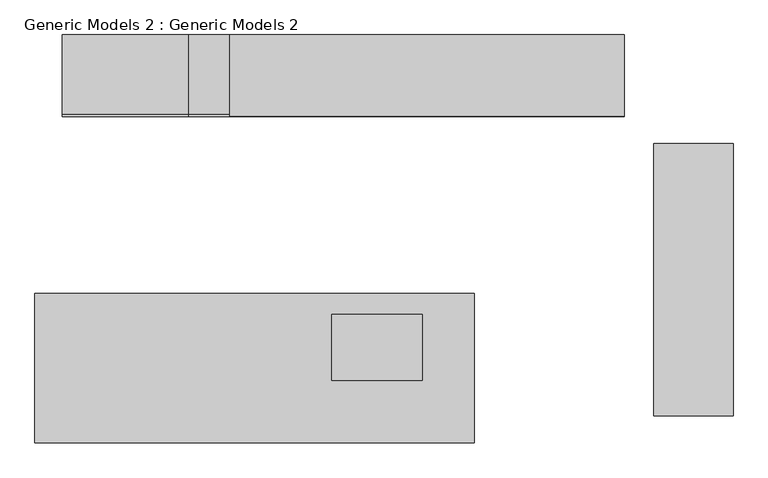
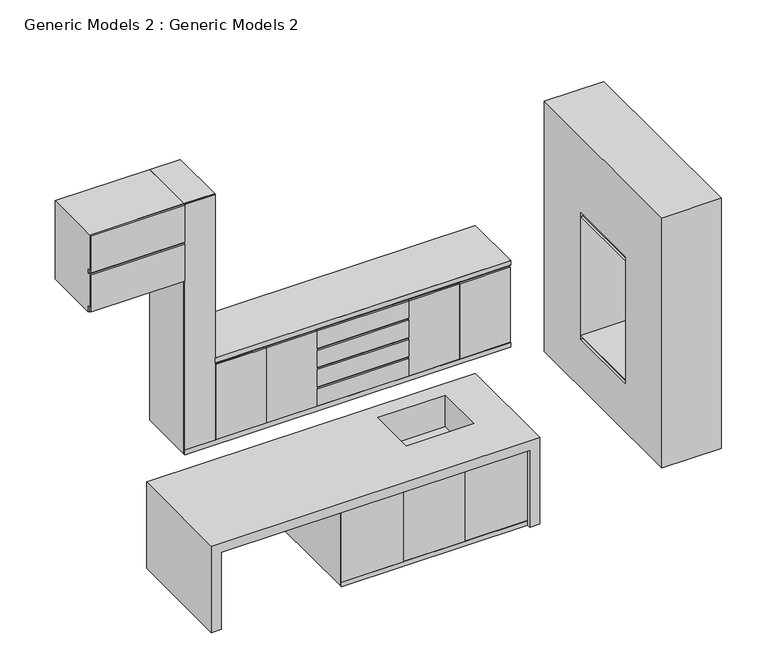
"""IFC4 building model written with IfcOpenShell, lengths in millimetres: proxy geometry, Generic Models 2 : Generic Models 2."""

from ifc_helpers import new_model, si_unit, point, frame, frame_2d, origin, origin_with_axes, place, context, project, spatial, polyline, circle_curve, trimmed, segment, composite_curve, outline, extrude, faceted_brep, source, transform, mapped, element, save


def generic_models_2_generic_models_2_3a1a0cb3(model_context):
    return source(origin(), model_context, "Body", "SolidModel", [
        extrude(outline(polyline([(7868.9525098, 5637.7866664), (8475.9525098, 5637.7866664), (8475.9525098, 5622.7866664), (7868.9525098, 5622.7866664), (7868.9525098, 5637.7866664)])), frame((0.0, 0.0, 50.0), z_axis=(0.0, 0.0, 1.0), x_axis=(1.0, 0.0, 0.0)), (0.0, 0.0, 1.0), 748.0),
        extrude(outline(polyline([(6650.4525708, 5637.7866664), (7257.9525098, 5637.7866664), (7257.9525098, 5622.7866664), (6650.4525708, 5622.7866664), (6650.4525708, 5637.7866664)])), frame((0.0, 0.0, 50.0), z_axis=(0.0, 0.0, 1.0), x_axis=(1.0, 0.0, 0.0)), (0.0, 0.0, 1.0), 748.0),
        extrude(outline(polyline([(6650.4525708, 5637.7866664), (8477.9525098, 5637.7866664), (8477.9525098, 5622.7866664), (6650.4525708, 5622.7866664), (6650.4525708, 5637.7866664)])), origin_with_axes(), (0.0, 0.0, 1.0), 48.0),
        extrude(outline(polyline([(7259.9525098, 5637.7866664), (7866.9525098, 5637.7866664), (7866.9525098, 5622.7866664), (7259.9525098, 5622.7866664), (7259.9525098, 5637.7866664)])), frame((0.0, 0.0, 50.0), z_axis=(0.0, 0.0, 1.0), x_axis=(1.0, 0.0, 0.0)), (0.0, 0.0, 1.0), 748.0),
        extrude(outline(polyline([(7868.9525098, 6652.7866664), (8475.9525098, 6652.7866664), (8475.9525098, 6637.7866664), (7868.9525098, 6637.7866664), (7868.9525098, 6652.7866664)])), frame((0.0, 0.0, 50.0), z_axis=(0.0, 0.0, 1.0), x_axis=(1.0, 0.0, 0.0)), (0.0, 0.0, 1.0), 730.0),
        extrude(outline(polyline([(6650.4525708, 6652.7866664), (7257.9525098, 6652.7866664), (7257.9525098, 6637.7866664), (6650.4525708, 6637.7866664), (6650.4525708, 6652.7866664)])), frame((0.0, 0.0, 50.0), z_axis=(0.0, 0.0, 1.0), x_axis=(1.0, 0.0, 0.0)), (0.0, 0.0, 1.0), 730.0),
        extrude(outline(polyline([(6650.4525708, 6652.7866664), (8477.9525098, 6652.7866664), (8477.9525098, 6637.7866664), (6650.4525708, 6637.7866664), (6650.4525708, 6652.7866664)])), origin_with_axes(), (0.0, 0.0, 1.0), 48.0),
        extrude(outline(polyline([(7259.9525098, 6652.7866664), (7866.9525098, 6652.7866664), (7866.9525098, 6637.7866664), (7259.9525098, 6637.7866664), (7259.9525098, 6652.7866664)])), frame((0.0, 0.0, 50.0), z_axis=(0.0, 0.0, 1.0), x_axis=(1.0, 0.0, 0.0)), (0.0, 0.0, 1.0), 730.0),
        faceted_brep([(5350.4525708, 5587.7866664, 900.0), (8577.9525098, 5587.7866664, 900.0), (8577.9525098, 6687.7866664, 900.0), (5350.4525708, 6687.7866664, 900.0), (8194.9232266, 6531.84284, 900.0), (8194.9232266, 6046.84284, 900.0), (7529.9232266, 6046.84284, 900.0), (7529.9232266, 6531.84284, 900.0), (5350.4525708, 5587.7866664, 0.0), (5350.4525708, 6687.7866664, 0.0), (5450.4525708, 6687.7866664, 0.0), (5450.4525708, 5587.7866664, 0.0), (8577.9525098, 6687.7866664, 0.0), (8577.9525098, 5587.7866664, 0.0), (8477.9525098, 5587.7866664, 0.0), (8477.9525098, 5637.7866664, 0.0), (6650.4525708, 5637.7866664, 0.0), (6650.4525708, 6637.7866664, 0.0), (8477.9525098, 6637.7866664, 0.0), (8477.9525098, 6687.7866664, 0.0), (5450.4525708, 5587.7866664, 800.0), (8477.9525098, 5587.7866664, 800.0), (8477.9525098, 6687.7866664, 800.0), (5450.4525708, 6687.7866664, 800.0), (6650.4525708, 5637.7866664, 800.0), (6650.4525708, 6612.7866664, 800.0), (6650.4525708, 6612.7866664, 750.0), (6650.4525708, 6637.7866664, 750.0), (8477.9525098, 6637.7866664, 800.0), (8492.9525098, 6637.7866664, 800.0), (8492.9525098, 6612.7866664, 800.0), (8477.9525098, 5637.7866664, 800.0), (8477.9525098, 6637.7866664, 750.0), (8492.9525098, 6637.7866664, 750.0), (8492.9525098, 6612.7866664, 750.0), (8194.9232266, 6531.84284, 573.4665837), (7529.9232266, 6531.84284, 573.4665837), (7529.9232266, 6046.84284, 573.4665837), (8194.9232266, 6046.84284, 573.4665837)], [[[0, 1, 2, 3], [4, 5, 6, 7]], [[8, 9, 10, 11]], [[12, 13, 14, 15, 16, 17, 18, 19]], [[1, 0, 8, 11, 20, 21, 14, 13]], [[2, 1, 13, 12]], [[3, 2, 12, 19, 22, 23, 10, 9]], [[0, 3, 9, 8]], [[16, 24, 25, 26, 27, 17]], [[23, 20, 11, 10]], [[20, 23, 22, 28, 29, 30, 25, 24, 31, 21]], [[31, 24, 16, 15]], [[31, 15, 14, 21]], [[18, 17, 27, 32]], [[28, 22, 19, 18, 32]], [[33, 34, 30, 29]], [[33, 29, 28, 32]], [[30, 34, 26, 25]], [[34, 33, 32, 27, 26]], [[35, 36, 37, 38]], [[35, 38, 5, 4]], [[38, 37, 6, 5]], [[37, 36, 7, 6]], [[36, 35, 4, 7]]]),
        faceted_brep([(9893.9525098, 5787.7866664, 2600.0), (9893.9525098, 7787.7866664, 2600.0), (9893.9525098, 7787.7866664, 0.0), (9893.9525098, 5787.7866664, 0.0), (9893.9525098, 7166.2866664, 544.0098741), (9893.9525098, 7166.2866664, 1776.0098741), (9893.9525098, 6409.2866664, 1776.0098741), (9893.9525098, 6409.2866664, 544.0098741), (9893.9525098, 6409.2866664, 1818.0098741), (9893.9525098, 6409.2866664, 1778.0098741), (9893.9525098, 7166.2866664, 1778.0098741), (9893.9525098, 7166.2866664, 1818.0098741), (9893.9525098, 6409.2866664, 542.0098741), (9893.9525098, 6409.2866664, 502.0098741), (9893.9525098, 7166.2866664, 502.0098741), (9893.9525098, 7166.2866664, 542.0098741), (10477.9525098, 5787.7866664, 2600.0), (10477.9525098, 5787.7866664, 0.0), (10477.9525098, 7787.7866664, 0.0), (10477.9525098, 7787.7866664, 2600.0), (10477.9525098, 7166.2866664, 544.0098741), (10477.9525098, 6409.2866664, 544.0098741), (10477.9525098, 6409.2866664, 1776.0098741), (10477.9525098, 7166.2866664, 1776.0098741), (9913.9525098, 6409.2866664, 1818.0098741), (9913.9525098, 7166.2866664, 1818.0098741), (9913.9525098, 7166.2866664, 1778.0098741), (9913.9525098, 6409.2866664, 1778.0098741), (9913.9525098, 6409.2866664, 542.0098741), (9913.9525098, 7166.2866664, 542.0098741), (9913.9525098, 7166.2866664, 502.0098741), (9913.9525098, 6409.2866664, 502.0098741)], [[[0, 1, 2, 3], [4, 5, 6, 7], [8, 9, 10, 11], [12, 13, 14, 15]], [[16, 17, 18, 19], [20, 21, 22, 23]], [[1, 0, 16, 19]], [[2, 1, 19, 18]], [[3, 2, 18, 17]], [[0, 3, 17, 16]], [[5, 4, 20, 23]], [[6, 5, 23, 22]], [[7, 6, 22, 21]], [[4, 7, 21, 20]], [[24, 25, 26, 27]], [[28, 29, 30, 31]], [[24, 27, 9, 8]], [[27, 26, 10, 9]], [[26, 25, 11, 10]], [[25, 24, 8, 11]], [[28, 31, 13, 12]], [[31, 30, 14, 13]], [[30, 29, 15, 14]], [[29, 28, 12, 15]]]),
        extrude(outline(polyline([(6475.9525098, 7987.7866664), (5552.4525708, 7987.7866664), (5552.4525708, 8003.7866664), (6475.9525098, 8003.7866664), (6475.9525098, 7987.7866664)])), frame((0.0, 0.0, 1806.0098741), z_axis=(0.0, 0.0, 1.0), x_axis=(1.0, 0.0, 0.0)), (0.0, 0.0, 1.0), 386.995063),
        extrude(outline(polyline([(6475.9525098, 7987.7866664), (5552.4525708, 7987.7866664), (5552.4525708, 8003.7866664), (6475.9525098, 8003.7866664), (6475.9525098, 7987.7866664)])), frame((0.0, 0.0, 2213.004937), z_axis=(0.0, 0.0, 1.0), x_axis=(1.0, 0.0, 0.0)), (0.0, 0.0, 1.0), 384.995063),
        extrude(outline(polyline([(8587.7866664, 2600.0), (8587.7866664, 1786.0098741), (8023.7866664, 1786.0098741), (8023.7866664, 1848.0), (8003.7866664, 1848.0), (8003.7866664, 2193.004937), (8023.7866664, 2193.004937), (8023.7866664, 2233.004937), (8003.7866664, 2233.004937), (8003.7866664, 2600.0), (8587.7866664, 2600.0)])), frame((5550.4525708, 0.0, 0.0), z_axis=(1.0, 0.0, 0.0), x_axis=(0.0, 1.0, 0.0)), (0.0, 0.0, 1.0), 927.499939),
        extrude(outline(polyline([(6777.9525098, 8003.7866664), (6477.9525098, 8003.7866664), (6477.9525098, 8587.7866664), (6777.9525098, 8587.7866664), (6777.9525098, 8003.7866664)])), origin_with_axes(), (0.0, 0.0, 1.0), 2600.0),
        extrude(outline(composite_curve([segment(polyline([(8587.7866664, 900.0), (8587.7866664, 850.0), (7988.7866664, 850.0)]), True, "CONTINUOUS"), segment(trimmed(circle_curve(frame_2d((7988.7866664, 851.0)), 1.0), [point((7988.7866664, 850.0))], [point((7987.7866664, 851.0))], False, "CARTESIAN"), True, "CONTINUOUS"), segment(polyline([(7987.7866664, 851.0), (7987.7866664, 899.0)]), True, "CONTINUOUS"), segment(trimmed(circle_curve(frame_2d((7988.7866664, 899.0)), 1.0), [point((7987.7866664, 899.0))], [point((7988.7866664, 900.0))], False, "CARTESIAN"), True, "CONTINUOUS"), segment(polyline([(7988.7866664, 900.0), (8587.7866664, 900.0)]), True, "CONTINUOUS")], self_intersect=False)), frame((6777.9525098, 0.0, 0.0), z_axis=(1.0, 0.0, 0.0), x_axis=(0.0, 1.0, 0.0)), (0.0, 0.0, 1.0), 2900.0),
        extrude(outline(polyline([(6777.9525098, 7987.7866664), (6477.9525098, 7987.7866664), (6477.9525098, 8003.7866664), (6777.9525098, 8003.7866664), (6777.9525098, 7987.7866664)])), frame((0.0, 0.0, 50.0), z_axis=(0.0, 0.0, 1.0), x_axis=(1.0, 0.0, 0.0)), (0.0, 0.0, 1.0), 2548.0),
        faceted_brep([(6777.9525098, 8003.7866664, 850.0), (6777.9525098, 8003.7866664, 0.0), (9677.9525098, 8003.7866664, 0.0), (9677.9525098, 8003.7866664, 810.0), (6778.9525098, 8003.7866664, 810.0), (6778.9525098, 8003.7866664, 850.0), (8675.9525098, 8003.7866664, 650.0), (8675.9525098, 8003.7866664, 610.0), (7777.9525098, 8003.7866664, 610.0), (7777.9525098, 8003.7866664, 650.0), (8675.9525098, 8003.7866664, 450.0), (8675.9525098, 8003.7866664, 410.0), (7777.9525098, 8003.7866664, 410.0), (7777.9525098, 8003.7866664, 450.0), (8675.9525098, 8003.7866664, 250.0), (8675.9525098, 8003.7866664, 210.0), (7777.9525098, 8003.7866664, 210.0), (7777.9525098, 8003.7866664, 250.0), (6777.9525098, 8587.7866664, 850.0), (9677.9525098, 8587.7866664, 850.0), (9677.9525098, 8587.7866664, 0.0), (6777.9525098, 8587.7866664, 0.0), (9677.9525098, 8023.7866664, 850.0), (9677.9525098, 8023.7866664, 810.0), (6778.9525098, 8023.7866664, 850.0), (6778.9525098, 8023.7866664, 810.0), (8675.9525098, 8023.7866664, 650.0), (8675.9525098, 8023.7866664, 610.0), (8675.9525098, 8023.7866664, 450.0), (8675.9525098, 8023.7866664, 410.0), (8675.9525098, 8023.7866664, 250.0), (8675.9525098, 8023.7866664, 210.0), (7777.9525098, 8023.7866664, 650.0), (7777.9525098, 8023.7866664, 610.0), (7777.9525098, 8023.7866664, 450.0), (7777.9525098, 8023.7866664, 410.0), (7777.9525098, 8023.7866664, 250.0), (7777.9525098, 8023.7866664, 210.0)], [[[0, 1, 2, 3, 4, 5], [6, 7, 8, 9], [10, 11, 12, 13], [14, 15, 16, 17]], [[18, 19, 20, 21]], [[1, 0, 18, 21]], [[2, 1, 21, 20]], [[20, 19, 22, 23, 3, 2]], [[19, 18, 0, 5, 24, 22]], [[4, 25, 24, 5]], [[25, 4, 3, 23]], [[24, 25, 23, 22]], [[26, 27, 7, 6]], [[28, 29, 11, 10]], [[30, 31, 15, 14]], [[32, 9, 8, 33]], [[34, 13, 12, 35]], [[36, 17, 16, 37]], [[26, 6, 9, 32]], [[7, 27, 33, 8]], [[27, 26, 32, 33]], [[28, 10, 13, 34]], [[11, 29, 35, 12]], [[29, 28, 34, 35]], [[30, 14, 17, 36]], [[15, 31, 37, 16]], [[31, 30, 36, 37]]]),
        extrude(outline(polyline([(9677.9525098, 7987.7866664), (6477.9525098, 7987.7866664), (6477.9525098, 8003.7866664), (9677.9525098, 8003.7866664), (9677.9525098, 7987.7866664)])), origin_with_axes(), (0.0, 0.0, 1.0), 48.0),
        extrude(outline(polyline([(9675.9525098, 7987.7866664), (9177.4525098, 7987.7866664), (9177.4525098, 8003.7866664), (9675.9525098, 8003.7866664), (9675.9525098, 7987.7866664)])), frame((0.0, 0.0, 50.0), z_axis=(0.0, 0.0, 1.0), x_axis=(1.0, 0.0, 0.0)), (0.0, 0.0, 1.0), 780.0),
        extrude(outline(polyline([(8675.9525098, 7987.7866664), (7777.9525098, 7987.7866664), (7777.9525098, 8003.7866664), (8675.9525098, 8003.7866664), (8675.9525098, 7987.7866664)])), frame((0.0, 0.0, 450.0), z_axis=(0.0, 0.0, 1.0), x_axis=(1.0, 0.0, 0.0)), (0.0, 0.0, 1.0), 180.0),
        extrude(outline(polyline([(8675.9525098, 7987.7866664), (7777.9525098, 7987.7866664), (7777.9525098, 8003.7866664), (8675.9525098, 8003.7866664), (8675.9525098, 7987.7866664)])), frame((0.0, 0.0, 650.0), z_axis=(0.0, 0.0, 1.0), x_axis=(1.0, 0.0, 0.0)), (0.0, 0.0, 1.0), 180.0),
        extrude(outline(polyline([(8675.9525098, 7987.7866664), (7777.9525098, 7987.7866664), (7777.9525098, 8003.7866664), (8675.9525098, 8003.7866664), (8675.9525098, 7987.7866664)])), frame((0.0, 0.0, 250.0), z_axis=(0.0, 0.0, 1.0), x_axis=(1.0, 0.0, 0.0)), (0.0, 0.0, 1.0), 180.0),
        extrude(outline(polyline([(8675.9525098, 7987.7866664), (7777.9525098, 7987.7866664), (7777.9525098, 8003.7866664), (8675.9525098, 8003.7866664), (8675.9525098, 7987.7866664)])), frame((0.0, 0.0, 50.0), z_axis=(0.0, 0.0, 1.0), x_axis=(1.0, 0.0, 0.0)), (0.0, 0.0, 1.0), 180.0),
        extrude(outline(polyline([(7276.4525098, 7987.7866664), (6779.9525098, 7987.7866664), (6779.9525098, 8003.7866664), (7276.4525098, 8003.7866664), (7276.4525098, 7987.7866664)])), frame((0.0, 0.0, 50.0), z_axis=(0.0, 0.0, 1.0), x_axis=(1.0, 0.0, 0.0)), (0.0, 0.0, 1.0), 780.0),
        extrude(outline(polyline([(7775.9525098, 7987.7866664), (7278.4525098, 7987.7866664), (7278.4525098, 8003.7866664), (7775.9525098, 8003.7866664), (7775.9525098, 7987.7866664)])), frame((0.0, 0.0, 50.0), z_axis=(0.0, 0.0, 1.0), x_axis=(1.0, 0.0, 0.0)), (0.0, 0.0, 1.0), 780.0),
        extrude(outline(polyline([(9175.4525098, 7987.7866664), (8677.9525098, 7987.7866664), (8677.9525098, 8003.7866664), (9175.4525098, 8003.7866664), (9175.4525098, 7987.7866664)])), frame((0.0, 0.0, 50.0), z_axis=(0.0, 0.0, 1.0), x_axis=(1.0, 0.0, 0.0)), (0.0, 0.0, 1.0), 780.0),
    ])


if __name__ == "__main__":
    model = new_model("IFC4")
    model_context = context("Model", 3, world=origin())
    ifc_project = project(units=[si_unit("LENGTHUNIT", "METRE", prefix="MILLI")], contexts=[model_context])
    site = spatial("IfcSite", under=ifc_project)
    building = spatial("IfcBuilding", under=site)
    placement = place(None, origin())
    generic_models_2_generic_models_2_shape = generic_models_2_generic_models_2_3a1a0cb3(model_context)
    element("IfcBuildingElementProxy", 1, Name="Generic Models 2 : Generic Models 2", ObjectType="Generic Models 2 : Generic Models 2", at=placement, inside=building, context=model_context, shape_type="MappedRepresentation", body=[
        mapped(generic_models_2_generic_models_2_shape, transform((0.0, 0.0, 0.0), x_axis=(1.0, 0.0, 0.0), y_axis=(0.0, 1.0, 0.0), z_axis=(0.0, 0.0, 1.0))),
    ])
    save(model, "model.ifc")
